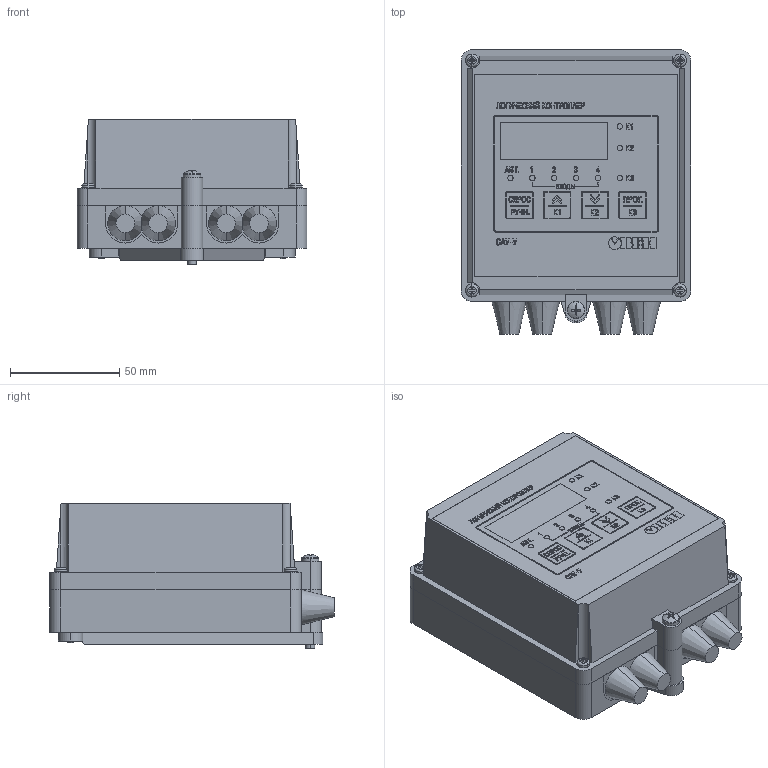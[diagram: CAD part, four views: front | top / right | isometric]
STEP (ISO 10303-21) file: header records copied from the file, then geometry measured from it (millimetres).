
FILE_DESCRIPTION (( 'STEP AP214' ), '1' );
FILE_NAME ('3D Ìîäåëü ÑÀÓ-Ó.Í.STEP', '2015-08-03T13:05:52', ( '' ), ( '' ), 'SwSTEP 2.0', 'SolidWorks 2013', '' );
FILE_SCHEMA (( 'AUTOMOTIVE_DESIGN' ));
Length unit declared in the file: millimetre
Products named in the file (10): 3D Ìîäåëü ÑÀÓ-Ó.Í; Ïàíåëü ëèöåâàÿ ÑÀÓ-Ó.Í; 睯艜 膴樖樉; 鎔艜 襞旂 17473_M4x10; ﾊ煇鳫; 砑鳧罻; pan cross head_am_B18.6.7M - M4 x 0.7 x 40 Type I Cross Recessed PHMS --40N; ч蜱齁膱; Êîðïóñ Í_íèç; 扻豵鵨 狉瞂贂
Assembly tree (15 placements, depth 2):
  3D Ìîäåëü ÑÀÓ-Ó.Í
    扻豵鵨 狉瞂贂
    Êîðïóñ Í_íèç
    ч蜱齁膱  x2
    pan cross head_am_B18.6.7M - M4 x 0.7 x 40 Type I Cross Recessed PHMS --40N
    砑鳧罻
    ﾊ煇鳫
    鎔艜 襞旂 17473_M4x10  x2
    睯艜 膴樖樉  x5
    Ïàíåëü ëèöåâàÿ ÑÀÓ-Ó.Í
Bounding box: 105 x 130 x 66.6 mm (x, y, z)
Volume: 153575.5 mm3; surface area: 131071.7 mm2
Topology: 15 solids, 15 shells, 1485 faces, 3888 edges, 2576 vertices
Faces by surface type: plane 1000, bspline 252, cylinder 179, torus 26, cone 22, sphere 6
Entity records: 55817 total; most frequent: CARTESIAN_POINT 10651, ORIENTED_EDGE 7092, DIRECTION 5625, EDGE_CURVE 3546, LINE 2613, VECTOR 2613, VERTEX_POINT 2356, EDGE_LOOP 1508
